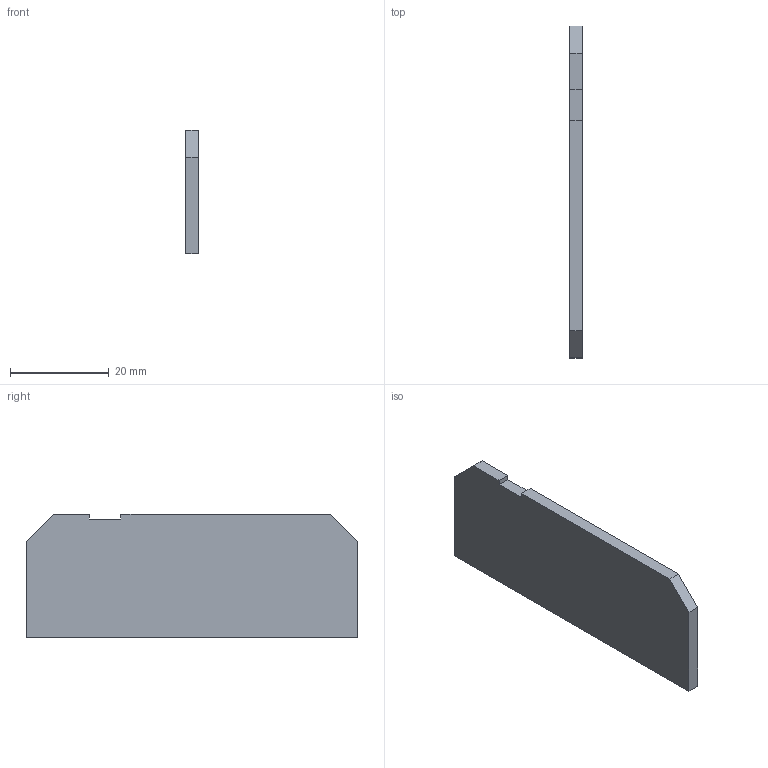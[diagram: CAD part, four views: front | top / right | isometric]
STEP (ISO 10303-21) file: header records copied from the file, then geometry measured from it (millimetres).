
FILE_DESCRIPTION(('Creo Elements/Direct Modeling STEP Export'),'2;1');
FILE_NAME('D:/temp/JobSpoolerServerData/JobServer Files/dfc00a28-8a69-4613-906f-b6de4e1087dc/work/output/model.stp','2018-02-09T10:19:24',(''),(''),'Creo Elements/Direct Modeling STEP processor for AP214 (Solid Model)','Creo Elements/Direct Modeling 18.1I 14-Aug-2016 (C) Parametric Technology GmbH','');
FILE_SCHEMA(('AUTOMOTIVE_DESIGN { 1 0 10303 214 1 1 1 1 }'));
Length unit declared in the file: millimetre
Products named in the file (2): DP_UKKB_3_5-select
Assembly tree (1 placements, depth 2):
  DP_UKKB_3_5-select
    DP_UKKB_3_5-select
Bounding box: 2.5 x 67.15 x 25.05 mm (x, y, z)
Volume: 4113.6 mm3; surface area: 3740.8 mm2
Topology: 1 solids, 1 shells, 12 faces, 30 edges, 20 vertices
Faces by surface type: plane 12
Entity records: 495 total; most frequent: CARTESIAN_POINT 64, ORIENTED_EDGE 60, DIRECTION 58, VECTOR 30, LINE 30, EDGE_CURVE 30, VERTEX_POINT 20, AXIS2_PLACEMENT_3D 14
